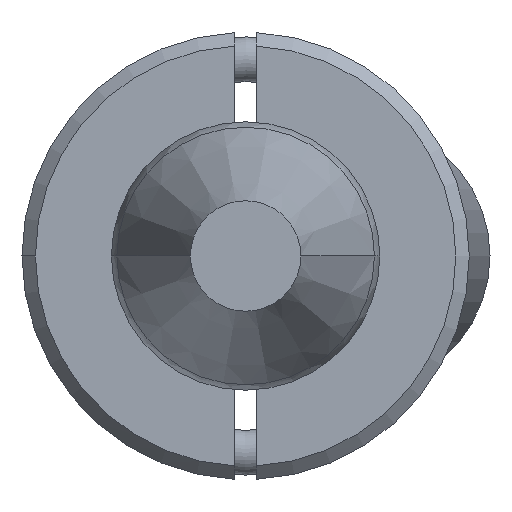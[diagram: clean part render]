
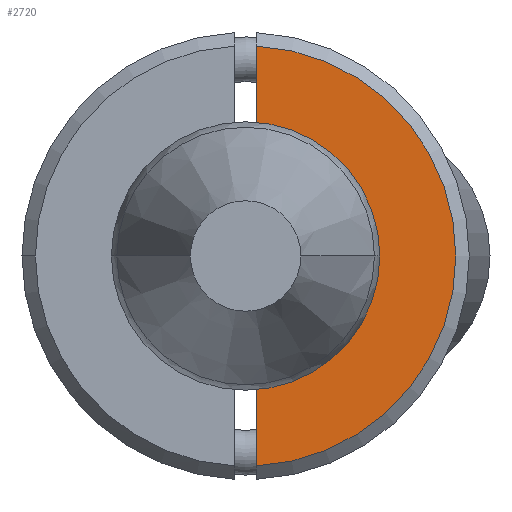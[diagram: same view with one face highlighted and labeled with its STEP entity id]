
A CAD part, front view. The second image highlights one B-rep face of the part: STEP entity #2720.
In plain terms, the highlighted planar face has unit normal (0, -1, 0).
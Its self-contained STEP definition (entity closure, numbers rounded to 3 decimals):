
#80 = CARTESIAN_POINT ( 'NONE',  ( 0., -6., -2.45 ) ) ;
#144 = AXIS2_PLACEMENT_3D ( 'NONE', #479, #3378, #1289 ) ;
#146 = VERTEX_POINT ( 'NONE', #461 ) ;
#355 = VERTEX_POINT ( 'NONE', #2076 ) ;
#412 = VERTEX_POINT ( 'NONE', #80 ) ;
#461 = CARTESIAN_POINT ( 'NONE',  ( 4.693, -6., -0.25 ) ) ;
#465 = ORIENTED_EDGE ( 'NONE', *, *, #3837, .T. ) ;
#479 = CARTESIAN_POINT ( 'NONE',  ( 0., -6., 0. ) ) ;
#510 = AXIS2_PLACEMENT_3D ( 'NONE', #1343, #2241, #1585 ) ;
#518 = EDGE_CURVE ( 'NONE', #412, #1800, #1685, .T. ) ;
#666 = VECTOR ( 'NONE', #2426, 1000. ) ;
#826 = CARTESIAN_POINT ( 'NONE',  ( -5., -6., 0. ) ) ;
#904 = CARTESIAN_POINT ( 'NONE',  ( 2.437, -6., -0.25 ) ) ;
#913 = LINE ( 'NONE', #2349, #3157 ) ;
#1103 = CARTESIAN_POINT ( 'NONE',  ( -2.437, -6., -0.25 ) ) ;
#1232 = ORIENTED_EDGE ( 'NONE', *, *, #1388, .F. ) ;
#1289 = DIRECTION ( 'NONE',  ( 0., 0., -1. ) ) ;
#1295 = CARTESIAN_POINT ( 'NONE',  ( -5., -6., -0.25 ) ) ;
#1297 = AXIS2_PLACEMENT_3D ( 'NONE', #826, #2257, #3447 ) ;
#1343 = CARTESIAN_POINT ( 'NONE',  ( 0., -6., 0. ) ) ;
#1388 = EDGE_CURVE ( 'NONE', #355, #1800, #3078, .T. ) ;
#1585 = DIRECTION ( 'NONE',  ( 0., 0., -1. ) ) ;
#1649 = ORIENTED_EDGE ( 'NONE', *, *, #2197, .F. ) ;
#1685 = CIRCLE ( 'NONE', #510, 2.45 ) ;
#1789 = ORIENTED_EDGE ( 'NONE', *, *, #518, .T. ) ;
#1800 = VERTEX_POINT ( 'NONE', #1103 ) ;
#2076 = CARTESIAN_POINT ( 'NONE',  ( -4.693, -6., -0.25 ) ) ;
#2094 = DIRECTION ( 'NONE',  ( 1., 0., 0. ) ) ;
#2197 = EDGE_CURVE ( 'NONE', #2307, #146, #913, .T. ) ;
#2241 = DIRECTION ( 'NONE',  ( 0., 1., 0. ) ) ;
#2257 = DIRECTION ( 'NONE',  ( 0., -1., 0. ) ) ;
#2297 = PLANE ( 'NONE',  #1297 ) ;
#2307 = VERTEX_POINT ( 'NONE', #904 ) ;
#2349 = CARTESIAN_POINT ( 'NONE',  ( -5., -6., -0.25 ) ) ;
#2426 = DIRECTION ( 'NONE',  ( 1., 0., 0. ) ) ;
#2476 = EDGE_CURVE ( 'NONE', #355, #146, #3405, .T. ) ;
#2495 = CARTESIAN_POINT ( 'NONE',  ( 0., -6., 0. ) ) ;
#2574 = ORIENTED_EDGE ( 'NONE', *, *, #2476, .T. ) ;
#2720 = ADVANCED_FACE ( 'NONE', ( #3503 ), #2297, .T. ) ;
#2766 = DIRECTION ( 'NONE',  ( 0., -1., 0. ) ) ;
#3078 = LINE ( 'NONE', #1295, #666 ) ;
#3108 = DIRECTION ( 'NONE',  ( 0., 0., -1. ) ) ;
#3157 = VECTOR ( 'NONE', #2094, 1000. ) ;
#3288 = AXIS2_PLACEMENT_3D ( 'NONE', #2495, #2766, #3108 ) ;
#3378 = DIRECTION ( 'NONE',  ( 0., 1., 0. ) ) ;
#3405 = CIRCLE ( 'NONE', #3288, 4.7 ) ;
#3427 = EDGE_LOOP ( 'NONE', ( #1232, #2574, #1649, #465, #1789 ) ) ;
#3447 = DIRECTION ( 'NONE',  ( 0., 0., -1. ) ) ;
#3503 = FACE_OUTER_BOUND ( 'NONE', #3427, .T. ) ;
#3563 = CIRCLE ( 'NONE', #144, 2.45 ) ;
#3837 = EDGE_CURVE ( 'NONE', #2307, #412, #3563, .T. ) ;
